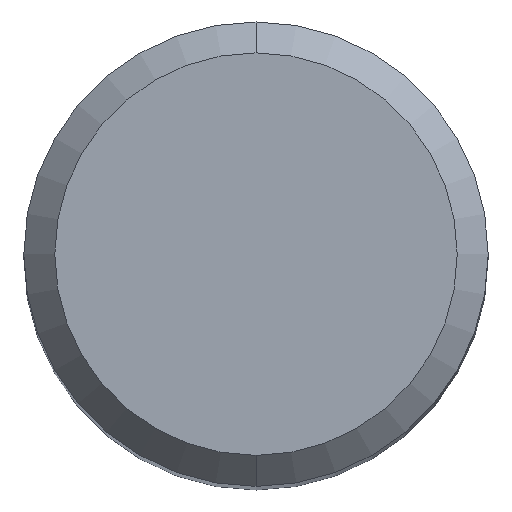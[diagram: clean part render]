
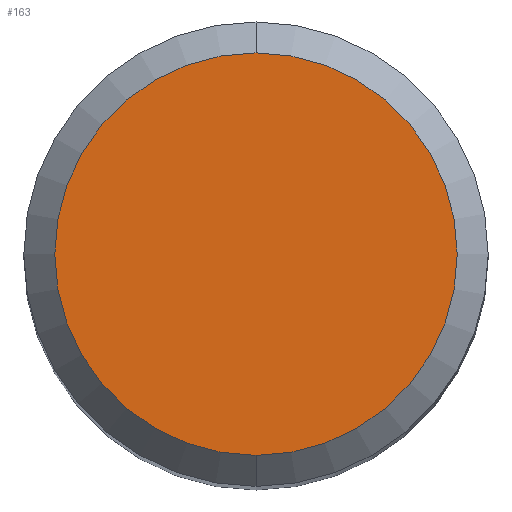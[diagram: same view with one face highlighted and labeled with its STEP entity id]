
A CAD part, top view. The second image highlights one B-rep face of the part: STEP entity #163.
In plain terms, the highlighted planar face has unit normal (0, 0, 1).
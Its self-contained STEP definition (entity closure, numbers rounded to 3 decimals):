
#133=VERTEX_POINT('',#352);
#163=ADVANCED_FACE('',(#385),#386,.T.);
#183=EDGE_CURVE('',#279,#133,#406,.T.);
#231=EDGE_CURVE('',#133,#279,#459,.T.);
#279=VERTEX_POINT('',#512);
#352=CARTESIAN_POINT('',(0.0,2.6,0.0));
#385=FACE_OUTER_BOUND('',#636,.T.);
#386=PLANE('',#637);
#406=CIRCLE('',#690,2.6);
#459=CIRCLE('',#858,2.6);
#512=CARTESIAN_POINT('',(0.,-2.6,0.0));
#636=EDGE_LOOP('',(#1135,#1136));
#637=AXIS2_PLACEMENT_3D('',#1137,#1138,#1139);
#690=AXIS2_PLACEMENT_3D('',#1145,#1146,#1147);
#858=AXIS2_PLACEMENT_3D('',#1199,#1200,#1201);
#1135=ORIENTED_EDGE('',*,*,#231,.F.);
#1136=ORIENTED_EDGE('',*,*,#183,.F.);
#1137=CARTESIAN_POINT('',(0.0,1.3,0.0));
#1138=DIRECTION('',(-0.0,0.0,1.0));
#1139=DIRECTION('',(0.0,-1.0,0.0));
#1145=CARTESIAN_POINT('',(0.0,0.0,0.0));
#1146=DIRECTION('',(0.0,0.0,-1.0));
#1147=DIRECTION('',(0.0,1.0,0.0));
#1199=CARTESIAN_POINT('',(0.0,0.0,0.0));
#1200=DIRECTION('',(0.0,0.0,-1.0));
#1201=DIRECTION('',(0.0,1.0,0.0));
